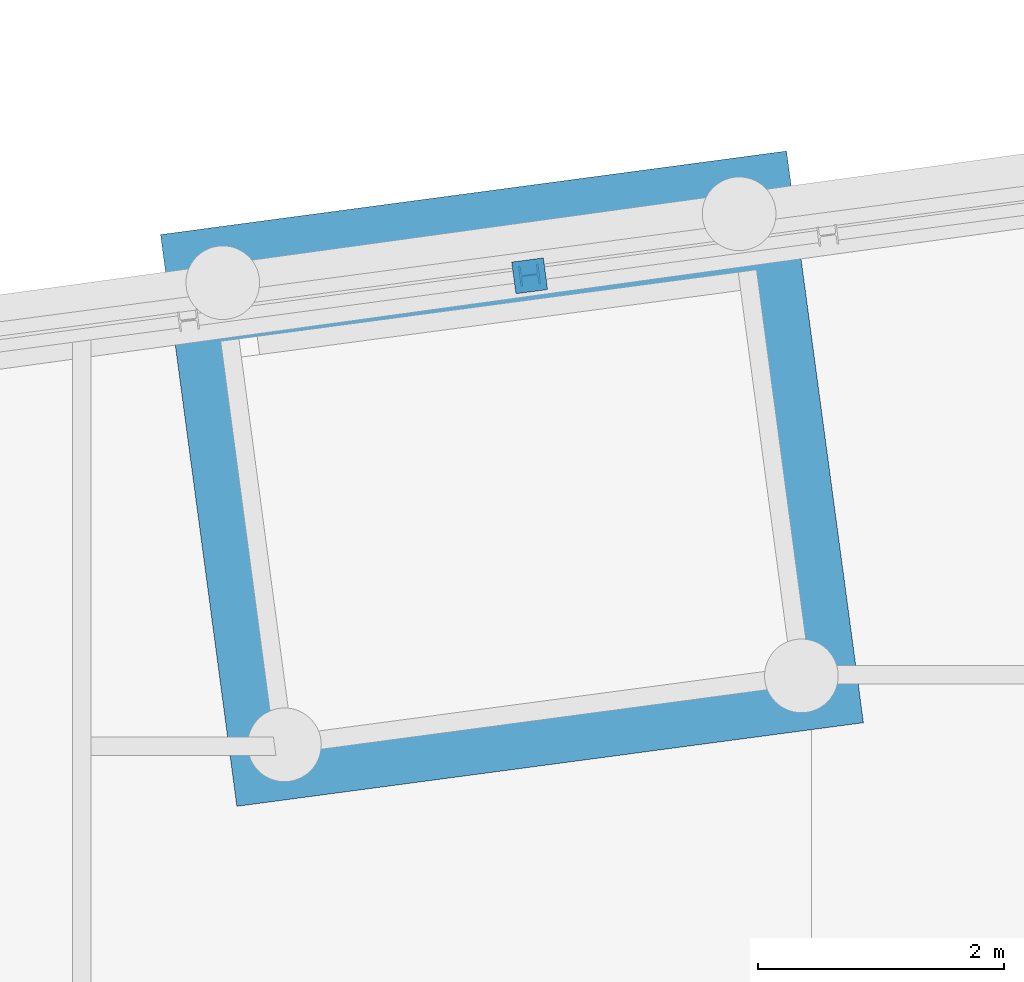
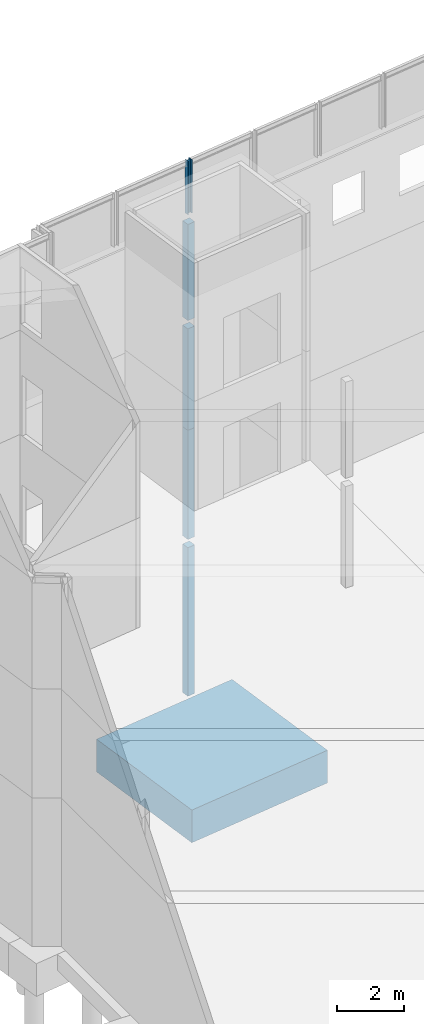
# One storey, part 23 of 82: 6 columns.
"""IFC2X3 building model written with IfcOpenShell, lengths in millimetres."""

from ifc_helpers import new_model, si_unit, frame, frame_2d, origin_with_axes, place, context, subcontext, project, spatial, polyline, rectangle, i_section, outline, extrude, material, type_object, element, save


model = new_model("IFC2X3")

# Units and contexts
model_context = context("Model", 3, precision=1e-05, world=origin_with_axes())
body_context = subcontext(model_context, "Body", "Model", "MODEL_VIEW")
ifc_project = project(units=[si_unit("LENGTHUNIT", "METRE", prefix="MILLI"), si_unit("AREAUNIT", "SQUARE_METRE"), si_unit("VOLUMEUNIT", "CUBIC_METRE"), si_unit("MASSUNIT", "GRAM", prefix="KILO"), si_unit("TIMEUNIT", "SECOND"), si_unit("PLANEANGLEUNIT", "RADIAN"), si_unit("SOLIDANGLEUNIT", "STERADIAN"), si_unit("THERMODYNAMICTEMPERATUREUNIT", "DEGREE_CELSIUS"), si_unit("LUMINOUSINTENSITYUNIT", "LUMEN")], contexts=[model_context])

# Site, building, storey
site_placement = place(None, origin_with_axes())
site = spatial("IfcSite", under=ifc_project, at=site_placement, Name="Undefined", CompositionType="ELEMENT")
building_placement = place(site_placement, origin_with_axes())
building = spatial("IfcBuilding", under=site, at=building_placement, Name="Undefined", CompositionType="ELEMENT")
storey_placement = place(building_placement, origin_with_axes())
storey = spatial("IfcBuildingStorey", under=building, at=storey_placement, Name="Undefined", CompositionType="ELEMENT", Elevation=0.0)

# Columns
ifc_material_1 = material(Name="CONCRETE/C25/30")
column_type_1 = type_object("IfcColumnType", Name="260*260", PredefinedType="NOTDEFINED")
column_1_placement = place(storey_placement, frame((9765.92814555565, 28143.9721299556, 13330.0000000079), z_axis=(0.0, 0.0, 1.0), x_axis=(1.0, 0.0, 0.0)))
element("IfcColumn", 1, at=column_1_placement, inside=storey, type_object=column_type_1, material=ifc_material_1, Name="POTEAU", ObjectType="260*260", context=body_context, shape_type="SweptSolid", body=[
    extrude(rectangle(XDim=260.0, YDim=260.0, at=frame_2d((5.17284206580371e-08, 4.49290382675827e-10), x_axis=(1.0, 0.0))), frame((0.0, 0.0, 3529.99999999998), z_axis=(0.0, -6.50000002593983e-08, -0.999999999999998), x_axis=(-0.131264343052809, 0.991347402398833, 0.0)), (0.0, 0.0, 1.0), 3530.0),
])
column_2_placement = place(storey_placement, frame((9765.92814554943, 28143.9721299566, 9305.00000000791), z_axis=(0.0, 0.0, 1.0), x_axis=(1.0, 0.0, 0.0)))
element("IfcColumn", 2, at=column_2_placement, inside=storey, type_object=column_type_1, material=ifc_material_1, Name="POTEAU", ObjectType="260*260", context=body_context, shape_type="SweptSolid", body=[
    extrude(rectangle(XDim=260.0, YDim=260.0, at=frame_2d((5.17284206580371e-08, 4.49290382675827e-10), x_axis=(1.0, 0.0))), frame((0.0, 0.0, 3725.0), z_axis=(0.0, -6.50000002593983e-08, -0.999999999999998), x_axis=(-0.131264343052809, 0.991347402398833, 0.0)), (0.0, 0.0, 1.0), 3725.0),
])
column_3_placement = place(storey_placement, frame((9765.92814554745, 28143.972129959, 5300.00000001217), z_axis=(0.0, 0.0, 1.0), x_axis=(1.0, 0.0, 0.0)))
element("IfcColumn", 3, at=column_3_placement, inside=storey, type_object=column_type_1, material=ifc_material_1, Name="POTEAU", ObjectType="260*260", context=body_context, shape_type="SweptSolid", body=[
    extrude(rectangle(XDim=260.0, YDim=260.0, at=frame_2d((5.17284206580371e-08, 4.49290382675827e-10), x_axis=(1.0, 0.0))), frame((0.0, 0.0, 4005.00000000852), z_axis=(0.0, -6.50000002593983e-08, -0.999999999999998), x_axis=(-0.131264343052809, 0.991347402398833, 0.0)), (0.0, 0.0, 1.0), 4005.0),
])
column_4_placement = place(storey_placement, frame((9765.92814553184, 28143.9721299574, -449.999511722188), z_axis=(0.0, 0.0, 1.0), x_axis=(1.0, 0.0, 0.0)))
element("IfcColumn", 4, at=column_4_placement, inside=storey, type_object=column_type_1, material=ifc_material_1, Name="POTEAU", ObjectType="260*260", context=body_context, shape_type="SweptSolid", body=[
    extrude(rectangle(XDim=260.0, YDim=260.0, at=frame_2d((5.17284206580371e-08, 4.49290382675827e-10), x_axis=(1.0, 0.0))), frame((0.0, 0.0, 5449.9995117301), z_axis=(0.0, -6.50000002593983e-08, -0.999999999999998), x_axis=(-0.131264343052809, 0.991347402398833, 0.0)), (0.0, 0.0, 1.0), 5450.0),
])
ifc_material_2 = material(Name="STEEL/S275JR")
column_type_2 = type_object("IfcColumnType", Name="HEB160", PredefinedType="NOTDEFINED")
column_5_placement = place(storey_placement, frame((9765.0590242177, 28149.5334856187, 17160.0), z_axis=(0.0, 0.0, 1.0), x_axis=(1.0, 0.0, 0.0)))
element("IfcColumn", 5, at=column_5_placement, inside=storey, type_object=column_type_2, material=ifc_material_2, Name="POTEAU", ObjectType="HEB160", context=body_context, shape_type="SweptSolid", body=[
    extrude(i_section(OverallWidth=160.0, OverallDepth=160.0, WebThickness=8.0, FlangeThickness=13.0, FilletRadius=15.0, at=frame_2d((5.17284206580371e-08, 4.49290382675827e-10), x_axis=(1.0, 0.0))), frame((0.0, 0.0, 1965.0), z_axis=(0.0, -6.50000002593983e-08, -0.999999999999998), x_axis=(0.132256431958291, -0.991215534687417, 0.0)), (0.0, 0.0, 1.0), 1965.0),
])
ifc_material_3 = material(Name="CONCRETE/C30/37")
column_type_3 = type_object("IfcColumnType", Name="1200*4695", PredefinedType="NOTDEFINED")
column_6_placement = place(storey_placement, frame((6762.10540277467, 28479.6504817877, -1900.0), z_axis=(0.0, 0.0, 1.0), x_axis=(0.132256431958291, -0.991215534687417, 0.0)))
element("IfcColumn", 6, at=column_6_placement, inside=storey, type_object=column_type_3, material=ifc_material_3, Name="SEMELLE", ObjectType="1200*4695", context=body_context, shape_type="SweptSolid", body=[
    extrude(outline(polyline([(5.17284206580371e-08, 4.49290382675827e-10), (4695.00000002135, 9.33869159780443e-09), (4694.97900393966, 5145.01953125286), (-0.000803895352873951, 5139.99853514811), (5.17284206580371e-08, 4.49290382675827e-10)])), frame((0.0, 0.0, -600.0), z_axis=(0.0, 0.0, 1.0), x_axis=(1.0, 0.0, 0.0)), (0.0, 0.0, 1.0), 1200.0),
])

save(model, "model.ifc")
